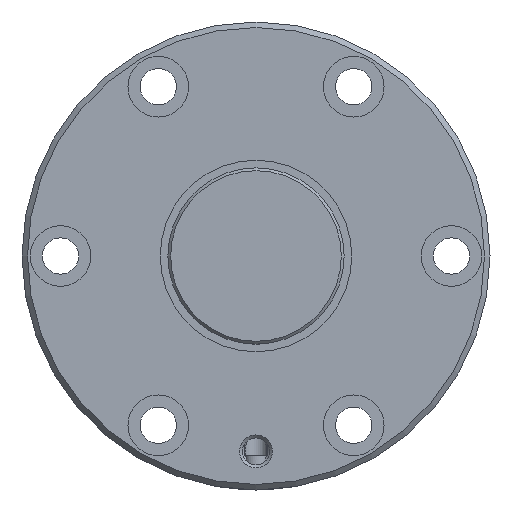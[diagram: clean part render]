
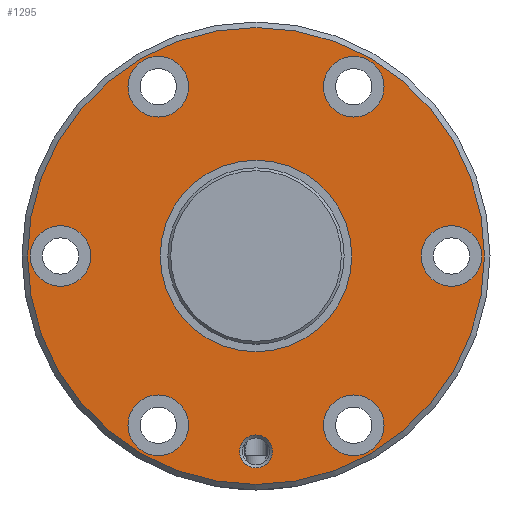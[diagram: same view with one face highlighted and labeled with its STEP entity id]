
A CAD part, left-side view. The second image highlights one B-rep face of the part: STEP entity #1295.
In plain terms, the highlighted planar face has unit normal (-1, 0, 0).
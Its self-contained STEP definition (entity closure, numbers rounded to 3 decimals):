
#145=PLANE('',#1429);
#212=ORIENTED_EDGE('',*,*,#518,.T.);
#213=ORIENTED_EDGE('',*,*,#519,.T.);
#214=ORIENTED_EDGE('',*,*,#520,.T.);
#215=ORIENTED_EDGE('',*,*,#521,.T.);
#216=ORIENTED_EDGE('',*,*,#522,.T.);
#217=ORIENTED_EDGE('',*,*,#523,.T.);
#218=ORIENTED_EDGE('',*,*,#524,.T.);
#219=ORIENTED_EDGE('',*,*,#525,.T.);
#220=ORIENTED_EDGE('',*,*,#517,.F.);
#517=EDGE_CURVE('',#675,#675,#795,.T.);
#518=EDGE_CURVE('',#676,#676,#796,.T.);
#519=EDGE_CURVE('',#677,#677,#797,.F.);
#520=EDGE_CURVE('',#678,#678,#798,.T.);
#521=EDGE_CURVE('',#679,#679,#799,.T.);
#522=EDGE_CURVE('',#680,#680,#800,.T.);
#523=EDGE_CURVE('',#681,#681,#801,.T.);
#524=EDGE_CURVE('',#682,#682,#802,.T.);
#525=EDGE_CURVE('',#683,#683,#803,.T.);
#675=VERTEX_POINT('',#2120);
#676=VERTEX_POINT('',#2123);
#677=VERTEX_POINT('',#2125);
#678=VERTEX_POINT('',#2127);
#679=VERTEX_POINT('',#2129);
#680=VERTEX_POINT('',#2131);
#681=VERTEX_POINT('',#2133);
#682=VERTEX_POINT('',#2135);
#683=VERTEX_POINT('',#2137);
#795=CIRCLE('',#1428,41.5);
#796=CIRCLE('',#1430,17.4);
#797=CIRCLE('',#1431,5.5);
#798=CIRCLE('',#1432,3.);
#799=CIRCLE('',#1433,5.5);
#800=CIRCLE('',#1434,5.5);
#801=CIRCLE('',#1435,5.5);
#802=CIRCLE('',#1436,5.5);
#803=CIRCLE('',#1437,5.5);
#902=EDGE_LOOP('',(#212));
#903=EDGE_LOOP('',(#213));
#904=EDGE_LOOP('',(#214));
#905=EDGE_LOOP('',(#215));
#906=EDGE_LOOP('',(#216));
#907=EDGE_LOOP('',(#217));
#908=EDGE_LOOP('',(#218));
#909=EDGE_LOOP('',(#219));
#910=EDGE_LOOP('',(#220));
#1083=FACE_BOUND('',#902,.T.);
#1084=FACE_BOUND('',#903,.T.);
#1085=FACE_BOUND('',#904,.T.);
#1086=FACE_BOUND('',#905,.T.);
#1087=FACE_BOUND('',#906,.T.);
#1088=FACE_BOUND('',#907,.T.);
#1089=FACE_BOUND('',#908,.T.);
#1090=FACE_BOUND('',#909,.T.);
#1091=FACE_BOUND('',#910,.T.);
#1295=ADVANCED_FACE('',(#1083,#1084,#1085,#1086,#1087,#1088,#1089,#1090,
#1091),#145,.T.);
#1428=AXIS2_PLACEMENT_3D('',#2119,#1654,#1655);
#1429=AXIS2_PLACEMENT_3D('',#2121,#1656,#1657);
#1430=AXIS2_PLACEMENT_3D('',#2122,#1658,#1659);
#1431=AXIS2_PLACEMENT_3D('',#2124,#1660,#1661);
#1432=AXIS2_PLACEMENT_3D('',#2126,#1662,#1663);
#1433=AXIS2_PLACEMENT_3D('',#2128,#1664,#1665);
#1434=AXIS2_PLACEMENT_3D('',#2130,#1666,#1667);
#1435=AXIS2_PLACEMENT_3D('',#2132,#1668,#1669);
#1436=AXIS2_PLACEMENT_3D('',#2134,#1670,#1671);
#1437=AXIS2_PLACEMENT_3D('',#2136,#1672,#1673);
#1654=DIRECTION('',(1.,0.,0.));
#1655=DIRECTION('',(0.,0.,-1.));
#1656=DIRECTION('',(-1.,0.,0.));
#1657=DIRECTION('',(0.,0.,1.));
#1658=DIRECTION('',(1.,0.,0.));
#1659=DIRECTION('',(0.,0.,-1.));
#1660=DIRECTION('',(-1.,0.,0.));
#1661=DIRECTION('',(0.,0.,1.));
#1662=DIRECTION('',(1.,0.,0.));
#1663=DIRECTION('',(0.,0.,-1.));
#1664=DIRECTION('',(1.,0.,0.));
#1665=DIRECTION('',(0.,0.,-1.));
#1666=DIRECTION('',(1.,0.,0.));
#1667=DIRECTION('',(0.,0.,-1.));
#1668=DIRECTION('',(1.,0.,0.));
#1669=DIRECTION('',(0.,0.,-1.));
#1670=DIRECTION('',(1.,0.,0.));
#1671=DIRECTION('',(0.,0.,-1.));
#1672=DIRECTION('',(1.,0.,0.));
#1673=DIRECTION('',(0.,0.,-1.));
#2119=CARTESIAN_POINT('',(0.,0.,0.));
#2120=CARTESIAN_POINT('',(0.,0.,-41.5));
#2121=CARTESIAN_POINT('',(0.,41.5,0.));
#2122=CARTESIAN_POINT('',(0.,0.,0.));
#2123=CARTESIAN_POINT('',(0.,0.,-17.4));
#2124=CARTESIAN_POINT('',(0.,35.5,0.));
#2125=CARTESIAN_POINT('',(0.,35.5,5.5));
#2126=CARTESIAN_POINT('',(0.,0.,-35.5));
#2127=CARTESIAN_POINT('',(0.,0.,-38.5));
#2128=CARTESIAN_POINT('',(0.,17.75,30.744));
#2129=CARTESIAN_POINT('',(0.,17.75,25.244));
#2130=CARTESIAN_POINT('',(0.,-17.75,-30.744));
#2131=CARTESIAN_POINT('',(0.,-17.75,-36.244));
#2132=CARTESIAN_POINT('',(0.,-17.75,30.744));
#2133=CARTESIAN_POINT('',(0.,-17.75,25.244));
#2134=CARTESIAN_POINT('',(0.,17.75,-30.744));
#2135=CARTESIAN_POINT('',(0.,17.75,-36.244));
#2136=CARTESIAN_POINT('',(0.,-35.5,0.));
#2137=CARTESIAN_POINT('',(0.,-35.5,-5.5));
